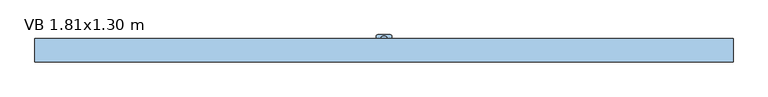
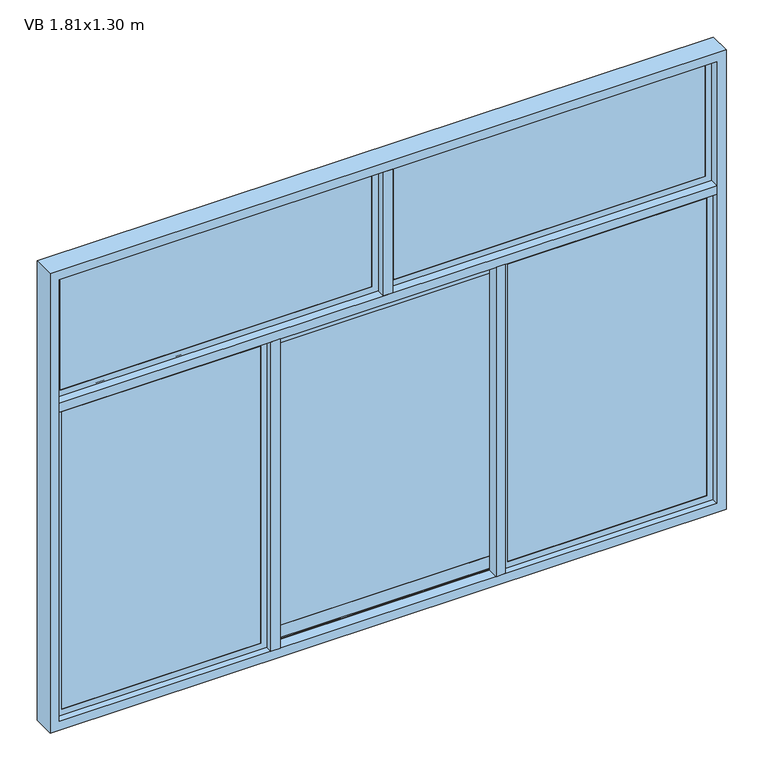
"""IFC4 building model written with IfcOpenShell, lengths in millimetres: window geometry, Ventana baja corrediza 3 cuerpos : VB 1.81x1.30 m."""

from ifc_helpers import new_model, si_unit, point, frame, frame_2d, origin, place, context, project, spatial, polyline, circle_curve, trimmed, segment, composite_curve, outline, extrude, faceted_brep, source, transform, mapped, element, save


def vb_1_81x1_30_m_b5e7ee37(model_context):
    return source(origin(), model_context, "Body", "SolidModel", [
        extrude(outline(composite_curve([segment(trimmed(circle_curve(frame_2d((0.0, 28.2738075)), 9.1519646), [point((9.1519646, 28.2738075))], [point((-9.1519646, 28.2738075))], False, "CARTESIAN"), True, "CONTINUOUS"), segment(trimmed(circle_curve(frame_2d((0.0, 28.2738075)), 9.1519646), [point((-9.1519646, 28.2738075))], [point((9.1519646, 28.2738075))], False, "CARTESIAN"), True, "CONTINUOUS")], self_intersect=False)), frame((0.0, 0.0, 966.1518437), z_axis=(0.0, 0.0, 1.0), x_axis=(1.0, 0.0, 0.0)), (0.0, 0.0, 1.0), 3.4852564),
        extrude(outline(composite_curve([segment(trimmed(circle_curve(frame_2d((0.0, 28.2738075)), 4.1308937), [point((4.1308937, 28.2738075))], [point((-4.1308937, 28.2738075))], False, "CARTESIAN"), True, "CONTINUOUS"), segment(trimmed(circle_curve(frame_2d((0.0, 28.2738075)), 4.1308937), [point((-4.1308937, 28.2738075))], [point((4.1308937, 28.2738075))], False, "CARTESIAN"), True, "CONTINUOUS")], self_intersect=False)), frame((0.0, 0.0, 953.913316), z_axis=(0.0, 0.0, 1.0), x_axis=(1.0, 0.0, 0.0)), (0.0, 0.0, 1.0), 12.2385277),
        extrude(outline(composite_curve([segment(trimmed(circle_curve(frame_2d((0.0, 28.2738075)), 7.026694), [point((7.026694, 28.2738075))], [point((-7.026694, 28.2738075))], False, "CARTESIAN"), True, "CONTINUOUS"), segment(trimmed(circle_curve(frame_2d((0.0, 28.2738075)), 7.026694), [point((-7.026694, 28.2738075))], [point((7.026694, 28.2738075))], False, "CARTESIAN"), True, "CONTINUOUS")], self_intersect=False)), frame((0.0, 0.0, 932.1776083), z_axis=(0.0, 0.0, 1.0), x_axis=(1.0, 0.0, 0.0)), (0.0, 0.0, 1.0), 21.7357077),
        extrude(outline(composite_curve([segment(trimmed(circle_curve(frame_2d((945.1933283, 18.01572)), 1.98428), [point((945.1933283, 20.0))], [point((947.1776083, 18.01572))], False, "CARTESIAN"), True, "CONTINUOUS"), segment(polyline([(947.1776083, 18.01572), (947.1776083, -18.01572)]), True, "CONTINUOUS"), segment(trimmed(circle_curve(frame_2d((945.1933283, -18.01572)), 1.98428), [point((947.1776083, -18.01572))], [point((945.1933283, -20.0))], False, "CARTESIAN"), True, "CONTINUOUS"), segment(polyline([(945.1933283, -20.0), (932.1776083, -20.0), (932.1776083, 20.0), (945.1933283, 20.0)]), True, "CONTINUOUS")], self_intersect=False), holes=[composite_curve([segment(trimmed(circle_curve(frame_2d((940.5771467, 13.3353779)), 1.6750611), [point((940.5771467, 15.0104391))], [point((940.5771467, 11.6603168))], True, "CARTESIAN"), True, "CONTINUOUS"), segment(trimmed(circle_curve(frame_2d((940.5771467, 13.3353779)), 1.6750611), [point((940.5771467, 11.6603168))], [point((940.5771467, 15.0104391))], True, "CARTESIAN"), True, "CONTINUOUS")], self_intersect=False), composite_curve([segment(trimmed(circle_curve(frame_2d((940.5771467, -13.3353779)), 1.6750611), [point((940.5771467, -15.0104391))], [point((940.5771467, -11.6603168))], True, "CARTESIAN"), True, "CONTINUOUS"), segment(trimmed(circle_curve(frame_2d((940.5771467, -13.3353779)), 1.6750611), [point((940.5771467, -11.6603168))], [point((940.5771467, -15.0104391))], True, "CARTESIAN"), True, "CONTINUOUS")], self_intersect=False)]), frame((0.0, 15.1098039, 0.0), z_axis=(0.0, 1.0, 0.0), x_axis=(0.0, 0.0, 1.0)), (0.0, 0.0, 1.0), 4.012039),
        extrude(outline(composite_curve([segment(polyline([(-20.0, 15.1098039), (-20.0, 36.2721359)]), True, "CONTINUOUS"), segment(trimmed(circle_curve(frame_2d((-16.1623319, 36.2721359)), 3.8376681), [point((-20.0, 36.2721359))], [point((-16.1623319, 40.1098039))], False, "CARTESIAN"), True, "CONTINUOUS"), segment(polyline([(-16.1623319, 40.1098039), (16.1623319, 40.1098039)]), True, "CONTINUOUS"), segment(trimmed(circle_curve(frame_2d((16.1623319, 36.2721359)), 3.8376681), [point((16.1623319, 40.1098039))], [point((20.0, 36.2721359))], False, "CARTESIAN"), True, "CONTINUOUS"), segment(polyline([(20.0, 36.2721359), (20.0, 15.1098039), (-20.0, 15.1098039)]), True, "CONTINUOUS")], self_intersect=False)), frame((0.0, 0.0, 928.6104688), z_axis=(0.0, 0.0, 1.0), x_axis=(1.0, 0.0, 0.0)), (0.0, 0.0, 1.0), 3.5671395),
        extrude(outline(polyline([(-314.1666667, 13.9001865), (314.1666667, 13.9001865), (314.1666667, 4.4001865), (-314.1666667, 4.4001865), (-314.1666667, 13.9001865)])), frame((0.0, 0.0, 948.9759668), z_axis=(0.0, 0.0, 1.0), x_axis=(1.0, 0.0, 0.0)), (0.0, 0.0, 1.0), 827.0480665),
        extrude(outline(polyline([(-317.7604167, -1.2096174), (-317.7604167, -10.7096174), (-876.40625, -10.7096174), (-876.40625, -1.2096174), (-317.7604167, -1.2096174)])), frame((0.0, 0.0, 928.59375), z_axis=(0.0, 0.0, 1.0), x_axis=(1.0, 0.0, 0.0)), (0.0, 0.0, 1.0), 867.8125),
        extrude(outline(polyline([(876.40625, -1.2096174), (876.40625, -10.7096174), (317.7604167, -10.7096174), (317.7604167, -1.2096174), (876.40625, -1.2096174)])), frame((0.0, 0.0, 928.59375), z_axis=(0.0, 0.0, 1.0), x_axis=(1.0, 0.0, 0.0)), (0.0, 0.0, 1.0), 867.8125),
        extrude(outline(polyline([(-16.09375, 4.75), (-16.09375, -4.75), (-876.40625, -4.75), (-876.40625, 4.75), (-16.09375, 4.75)])), frame((0.0, 0.0, 1828.59375), z_axis=(0.0, 0.0, 1.0), x_axis=(1.0, 0.0, 0.0)), (0.0, 0.0, 1.0), 342.8125),
        extrude(outline(polyline([(876.40625, 4.75), (876.40625, -4.75), (16.09375, -4.75), (16.09375, 4.75), (876.40625, 4.75)])), frame((0.0, 0.0, 1828.59375), z_axis=(0.0, 0.0, 1.0), x_axis=(1.0, 0.0, 0.0)), (0.0, 0.0, 1.0), 342.8125),
        extrude(outline(composite_curve([segment(polyline([(10.2821926, 1800.0), (10.2821926, 1789.1628008)]), True, "CONTINUOUS"), segment(trimmed(circle_curve(frame_2d((9.1502142, 1789.8593269)), 1.3291064), [point((10.2821926, 1789.1628008))], [point((8.0182357, 1789.1628008))], False, "CARTESIAN"), True, "CONTINUOUS"), segment(polyline([(8.0182357, 1789.1628008), (8.0182357, 1797.9830324), (0.0, 1797.9830324), (0.0, 1800.0), (10.2821926, 1800.0)]), True, "CONTINUOUS")], self_intersect=False)), frame((-863.2282521, 0.0, 0.0), z_axis=(1.0, 0.0, 0.0), x_axis=(0.0, 1.0, 0.0)), (0.0, 0.0, 1.0), 1726.4565041),
        extrude(outline(polyline([(12.0251865, 1779.6177832), (12.0251865, 1796.3895312), (15.1098039, 1796.3895312), (15.1098039, 1762.8460353), (13.9001865, 1762.8460353), (13.9001865, 1776.0240332), (4.4001865, 1776.0240332), (4.4001865, 1762.8460353), (3.190569, 1762.8460353), (3.190569, 1796.3895312), (6.2751865, 1796.3895312), (6.2751865, 1779.6177832), (12.0251865, 1779.6177832)])), frame((-314.1666667, 0.0, 0.0), z_axis=(1.0, 0.0, 0.0), x_axis=(0.0, 1.0, 0.0)), (0.0, 0.0, 1.0), 628.3333333),
        extrude(outline(polyline([(6.9867702, 1780.2900719), (6.9867702, 1789.8233667), (9.1501865, 1787.6599504), (11.3136028, 1789.8233667), (11.3136028, 1780.2900719), (9.1501865, 1782.4534882), (6.9867702, 1780.2900719)])), frame((-314.1666667, 0.0, 0.0), z_axis=(1.0, 0.0, 0.0), x_axis=(0.0, 1.0, 0.0)), (0.0, 0.0, 1.0), 628.3333333),
        faceted_brep([(-330.9384146, 0.0, 1783.2282521), (-330.9384146, 0.0, 941.7717479), (-330.9384146, -1.2096174, 941.7717479), (-330.9384146, -1.2096174, 1783.2282521), (-317.7604167, -1.2096174, 1796.40625), (-317.7604167, -1.2096174, 928.59375), (-317.7604167, -10.7096174, 928.59375), (-317.7604167, -10.7096174, 1796.40625), (-330.9384146, -10.7096174, 1783.2282521), (-330.9384146, -10.7096174, 941.7717479), (-330.9384146, -11.9192349, 941.7717479), (-330.9384146, -11.9192349, 1783.2282521), (-314.1666667, -11.9192349, 1800.0), (-314.1666667, -11.9192349, 925.0), (-314.1666667, 0.0, 925.0), (-314.1666667, 0.0, 1800.0), (-863.2282521, 0.0, 941.7717479), (-863.2282521, -1.2096174, 941.7717479), (-876.40625, -1.2096174, 928.59375), (-876.40625, -10.7096174, 928.59375), (-863.2282521, -10.7096174, 941.7717479), (-863.2282521, -11.9192349, 941.7717479), (-880.0, -11.9192349, 925.0), (-880.0, 0.0, 925.0), (-863.2282521, 0.0, 1783.2282521), (-863.2282521, -1.2096174, 1783.2282521), (-876.40625, -1.2096174, 1796.40625), (-876.40625, -10.7096174, 1796.40625), (-863.2282521, -10.7096174, 1783.2282521), (-863.2282521, -11.9192349, 1783.2282521), (-880.0, -11.9192349, 1800.0), (-880.0, 0.0, 1800.0)], [[[0, 1, 2, 3]], [[4, 5, 6, 7]], [[8, 9, 10, 11]], [[12, 13, 14, 15]], [[1, 16, 17, 2]], [[5, 18, 19, 6]], [[9, 20, 21, 10]], [[13, 22, 23, 14]], [[16, 24, 25, 17]], [[18, 26, 27, 19]], [[20, 28, 29, 21]], [[22, 30, 31, 23]], [[15, 14, 23, 31], [1, 0, 24, 16]], [[24, 0, 3, 25]], [[5, 4, 26, 18], [3, 2, 17, 25]], [[26, 4, 7, 27]], [[7, 6, 19, 27], [9, 8, 28, 20]], [[28, 8, 11, 29]], [[13, 12, 30, 22], [11, 10, 21, 29]], [[30, 12, 15, 31]]]),
        faceted_brep([(330.9384146, -1.2096174, 1783.2282521), (330.9384146, -1.2096174, 941.7717479), (330.9384146, 0.0, 941.7717479), (330.9384146, 0.0, 1783.2282521), (317.7604167, -10.7096174, 1796.40625), (317.7604167, -10.7096174, 928.59375), (317.7604167, -1.2096174, 928.59375), (317.7604167, -1.2096174, 1796.40625), (330.9384146, -11.9192349, 1783.2282521), (330.9384146, -11.9192349, 941.7717479), (330.9384146, -10.7096174, 941.7717479), (330.9384146, -10.7096174, 1783.2282521), (314.1666667, 0.0, 1800.0), (314.1666667, 0.0, 925.0), (314.1666667, -11.9192349, 925.0), (314.1666667, -11.9192349, 1800.0), (863.2282521, -1.2096174, 941.7717479), (863.2282521, 0.0, 941.7717479), (876.40625, -10.7096174, 928.59375), (876.40625, -1.2096174, 928.59375), (863.2282521, -11.9192349, 941.7717479), (863.2282521, -10.7096174, 941.7717479), (880.0, 0.0, 925.0), (880.0, -11.9192349, 925.0), (863.2282521, -1.2096174, 1783.2282521), (863.2282521, 0.0, 1783.2282521), (876.40625, -10.7096174, 1796.40625), (876.40625, -1.2096174, 1796.40625), (863.2282521, -11.9192349, 1783.2282521), (863.2282521, -10.7096174, 1783.2282521), (880.0, 0.0, 1800.0), (880.0, -11.9192349, 1800.0)], [[[0, 1, 2, 3]], [[4, 5, 6, 7]], [[8, 9, 10, 11]], [[12, 13, 14, 15]], [[1, 16, 17, 2]], [[5, 18, 19, 6]], [[9, 20, 21, 10]], [[13, 22, 23, 14]], [[16, 24, 25, 17]], [[18, 26, 27, 19]], [[20, 28, 29, 21]], [[22, 30, 31, 23]], [[13, 12, 30, 22], [3, 2, 17, 25]], [[24, 0, 3, 25]], [[7, 6, 19, 27], [1, 0, 24, 16]], [[26, 4, 7, 27]], [[5, 4, 26, 18], [11, 10, 21, 29]], [[28, 8, 11, 29]], [[15, 14, 23, 31], [9, 8, 28, 20]], [[30, 12, 15, 31]]]),
        faceted_brep([(-880.0, 5.9596174, 2175.0), (-880.0, 5.9596174, 1825.0), (-880.0, -5.9596174, 1825.0), (-880.0, -5.9596174, 2175.0), (-863.2282521, 4.75, 2158.2282521), (-863.2282521, 4.75, 1841.7717479), (-863.2282521, 5.9596174, 1841.7717479), (-863.2282521, 5.9596174, 2158.2282521), (-876.40625, -4.75, 2171.40625), (-876.40625, -4.75, 1828.59375), (-876.40625, 4.75, 1828.59375), (-876.40625, 4.75, 2171.40625), (-863.2282521, -5.9596174, 2158.2282521), (-863.2282521, -5.9596174, 1841.7717479), (-863.2282521, -4.75, 1841.7717479), (-863.2282521, -4.75, 2158.2282521), (-12.5, 5.9596174, 1825.0), (-12.5, -5.9596174, 1825.0), (-29.2717479, 4.75, 1841.7717479), (-29.2717479, 5.9596174, 1841.7717479), (-16.09375, -4.75, 1828.59375), (-16.09375, 4.75, 1828.59375), (-29.2717479, -5.9596174, 1841.7717479), (-29.2717479, -4.75, 1841.7717479), (-12.5, 5.9596174, 2175.0), (-12.5, -5.9596174, 2175.0), (-29.2717479, 4.75, 2158.2282521), (-29.2717479, 5.9596174, 2158.2282521), (-16.09375, -4.75, 2171.40625), (-16.09375, 4.75, 2171.40625), (-29.2717479, -5.9596174, 2158.2282521), (-29.2717479, -4.75, 2158.2282521)], [[[0, 1, 2, 3]], [[4, 5, 6, 7]], [[8, 9, 10, 11]], [[12, 13, 14, 15]], [[1, 16, 17, 2]], [[5, 18, 19, 6]], [[9, 20, 21, 10]], [[13, 22, 23, 14]], [[16, 24, 25, 17]], [[18, 26, 27, 19]], [[20, 28, 29, 21]], [[22, 30, 31, 23]], [[24, 0, 3, 25]], [[1, 0, 24, 16], [7, 6, 19, 27]], [[26, 4, 7, 27]], [[11, 10, 21, 29], [5, 4, 26, 18]], [[28, 8, 11, 29]], [[9, 8, 28, 20], [15, 14, 23, 31]], [[30, 12, 15, 31]], [[3, 2, 17, 25], [13, 12, 30, 22]]]),
        faceted_brep([(16.09375, -4.75, 2171.40625), (16.09375, -4.75, 1828.59375), (16.09375, 4.75, 1828.59375), (16.09375, 4.75, 2171.40625), (29.2717479, -5.9596174, 2158.2282521), (29.2717479, -5.9596174, 1841.7717479), (29.2717479, -4.75, 1841.7717479), (29.2717479, -4.75, 2158.2282521), (12.5, 5.9596174, 2175.0), (12.5, 5.9596174, 1825.0), (12.5, -5.9596174, 1825.0), (12.5, -5.9596174, 2175.0), (29.2717479, 4.75, 2158.2282521), (29.2717479, 4.75, 1841.7717479), (29.2717479, 5.9596174, 1841.7717479), (29.2717479, 5.9596174, 2158.2282521), (876.40625, -4.75, 1828.59375), (876.40625, 4.75, 1828.59375), (863.2282521, -5.9596174, 1841.7717479), (863.2282521, -4.75, 1841.7717479), (880.0, 5.9596174, 1825.0), (880.0, -5.9596174, 1825.0), (863.2282521, 4.75, 1841.7717479), (863.2282521, 5.9596174, 1841.7717479), (876.40625, -4.75, 2171.40625), (876.40625, 4.75, 2171.40625), (863.2282521, -5.9596174, 2158.2282521), (863.2282521, -4.75, 2158.2282521), (880.0, 5.9596174, 2175.0), (880.0, -5.9596174, 2175.0), (863.2282521, 4.75, 2158.2282521), (863.2282521, 5.9596174, 2158.2282521)], [[[0, 1, 2, 3]], [[4, 5, 6, 7]], [[8, 9, 10, 11]], [[12, 13, 14, 15]], [[1, 16, 17, 2]], [[5, 18, 19, 6]], [[9, 20, 21, 10]], [[13, 22, 23, 14]], [[16, 24, 25, 17]], [[18, 26, 27, 19]], [[20, 28, 29, 21]], [[22, 30, 31, 23]], [[24, 0, 3, 25]], [[1, 0, 24, 16], [7, 6, 19, 27]], [[26, 4, 7, 27]], [[11, 10, 21, 29], [5, 4, 26, 18]], [[28, 8, 11, 29]], [[9, 8, 28, 20], [15, 14, 23, 31]], [[30, 12, 15, 31]], [[3, 2, 17, 25], [13, 12, 30, 22]]]),
        extrude(outline(polyline([(12.5, 30.15), (12.5, -30.15), (-12.5, -30.15), (-12.5, 30.15), (12.5, 30.15)])), frame((0.0, 0.0, 1825.0), z_axis=(0.0, 0.0, 1.0), x_axis=(1.0, 0.0, 0.0)), (0.0, 0.0, 1.0), 350.0),
        extrude(outline(polyline([(-289.1666667, 0.0), (-289.1666667, -30.15), (-314.1666667, -30.15), (-314.1666667, 0.0), (-289.1666667, 0.0)])), frame((0.0, 0.0, 925.0), z_axis=(0.0, 0.0, 1.0), x_axis=(1.0, 0.0, 0.0)), (0.0, 0.0, 1.0), 875.0),
        extrude(outline(polyline([(314.1666667, 0.0), (314.1666667, -30.15), (289.1666667, -30.15), (289.1666667, 0.0), (314.1666667, 0.0)])), frame((0.0, 0.0, 925.0), z_axis=(0.0, 0.0, 1.0), x_axis=(1.0, 0.0, 0.0)), (0.0, 0.0, 1.0), 875.0),
        extrude(outline(polyline([(880.0, -30.15), (-880.0, -30.15), (-880.0, 30.15), (880.0, 30.15), (880.0, -30.15)])), frame((0.0, 0.0, 1800.0), z_axis=(0.0, 0.0, 1.0), x_axis=(1.0, 0.0, 0.0)), (0.0, 0.0, 1.0), 25.0),
        extrude(outline(polyline([(2200.0, -905.0), (900.0, -905.0), (900.0, 905.0), (2200.0, 905.0), (2200.0, -905.0)]), holes=[polyline([(925.0, -880.0), (2175.0, -880.0), (2175.0, 880.0), (925.0, 880.0), (925.0, -880.0)])]), frame((0.0, -30.15, 0.0), z_axis=(0.0, 1.0, 0.0), x_axis=(0.0, 0.0, 1.0)), (0.0, 0.0, 1.0), 60.3),
        extrude(outline(polyline([(3.190569, 962.1539647), (4.4001865, 962.1539647), (4.4001865, 948.9759668), (13.9001865, 948.9759668), (13.9001865, 962.1539647), (15.1098039, 962.1539647), (15.1098039, 928.6104688), (12.0251865, 928.6104688), (12.0251865, 945.3822168), (6.2751865, 945.3822168), (6.2751865, 928.6104688), (3.190569, 928.6104688), (3.190569, 962.1539647)])), frame((-314.1666667, 0.0, 0.0), z_axis=(1.0, 0.0, 0.0), x_axis=(0.0, 1.0, 0.0)), (0.0, 0.0, 1.0), 628.3333333),
        extrude(outline(polyline([(9.1501865, 942.5465118), (11.3136028, 944.7099281), (11.3136028, 935.1766333), (9.1501865, 937.3400496), (6.9867702, 935.1766333), (6.9867702, 944.7099281), (9.1501865, 942.5465118)])), frame((-314.1666667, 0.0, 0.0), z_axis=(1.0, 0.0, 0.0), x_axis=(0.0, 1.0, 0.0)), (0.0, 0.0, 1.0), 628.3333333),
        extrude(outline(composite_curve([segment(polyline([(10.2821926, 925.0), (0.0, 925.0), (0.0, 927.0169676), (8.0182357, 927.0169676), (8.0182357, 935.8371992)]), True, "CONTINUOUS"), segment(trimmed(circle_curve(frame_2d((9.1502142, 935.1406731)), 1.3291064), [point((8.0182357, 935.8371992))], [point((10.2821926, 935.8371992))], False, "CARTESIAN"), True, "CONTINUOUS"), segment(polyline([(10.2821926, 935.8371992), (10.2821926, 925.0)]), True, "CONTINUOUS")], self_intersect=False)), frame((-863.2282521, 0.0, 0.0), z_axis=(1.0, 0.0, 0.0), x_axis=(0.0, 1.0, 0.0)), (0.0, 0.0, 1.0), 1726.4565041),
    ])


if __name__ == "__main__":
    model = new_model("IFC4")
    model_context = context("Model", 3, world=origin())
    ifc_project = project(units=[si_unit("LENGTHUNIT", "METRE", prefix="MILLI")], contexts=[model_context])
    site = spatial("IfcSite", under=ifc_project)
    building = spatial("IfcBuilding", under=site)
    placement = place(None, origin())
    vb_1_81x1_30_m_shape = vb_1_81x1_30_m_b5e7ee37(model_context)
    element("IfcWindow", 1, ObjectType="Ventana baja corrediza 3 cuerpos : VB 1.81x1.30 m", at=placement, inside=building, context=model_context, shape_type="MappedRepresentation", body=[
        mapped(vb_1_81x1_30_m_shape, transform((0.0, 0.0, 0.0), x_axis=(1.0, 0.0, 0.0), y_axis=(0.0, 1.0, 0.0), z_axis=(0.0, 0.0, 1.0))),
    ])
    save(model, "model.ifc")
